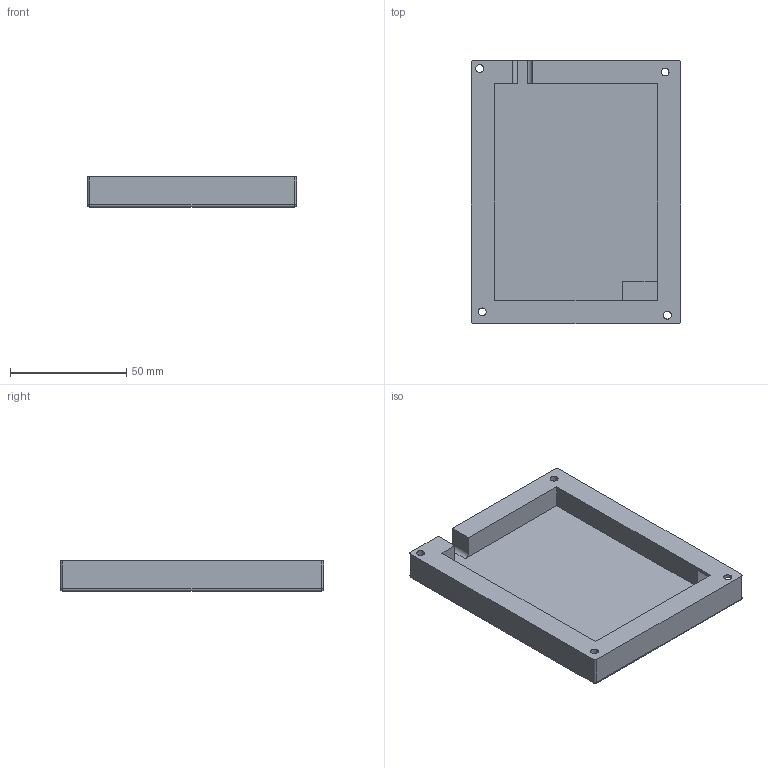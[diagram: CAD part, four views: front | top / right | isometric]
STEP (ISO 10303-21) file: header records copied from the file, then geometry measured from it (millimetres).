
FILE_DESCRIPTION(/* description */ ('STEP AP242 Edition 2','CAx-IF Rec.Pracs.---Representation and Presentation of Product Manufacturing Information (PMI)---4.0---2014-10-13','CAx-IF Rec.Pracs.---3D Tessellated Geometry---0.4---2014-09-14','2;1','CAx-IF Rec.Pracs.---User Defined Attributes---1.5---2016-08-15'),/* implementation_level */ '2;1');
FILE_NAME(/* name */ 'Assembly 1 - Part 1 (2)',/* time_stamp */ '2026-03-29T21:14:55Z',/* author */ (''),/* organization */ (''),/* preprocessor_version */ 'ST-DEVELOPER v20',/* originating_system */ 'ONSHAPE BY PTC INC, 1.212',/* authorisation */ ' ');
FILE_SCHEMA (('AP242_MANAGED_MODEL_BASED_3D_ENGINEERING_MIM_LF { 1 0 10303 442 3 1 4 }'));
Length unit declared in the file: metre
Products named in the file (1): Part 1
Bounding box: 90 x 113.26 x 13 mm (x, y, z)
Volume: 63632.6 mm3; surface area: 29694.3 mm2
Topology: 1 solids, 1 shells, 38 faces, 107 edges, 64 vertices
Faces by surface type: plane 20, cylinder 14, sphere 4
Full cylindrical faces by diameter (mm): 3.4 x4
Entity records: 1206 total; most frequent: DIRECTION 206, CARTESIAN_POINT 201, ORIENTED_EDGE 196, EDGE_CURVE 98, AXIS2_PLACEMENT_3D 69, LINE 68, VECTOR 68, VERTEX_POINT 64
